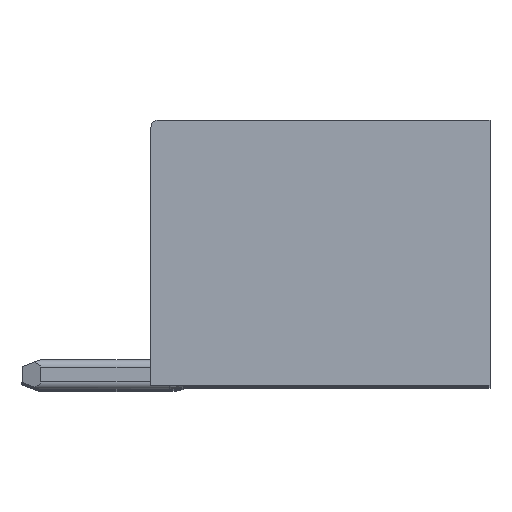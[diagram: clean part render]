
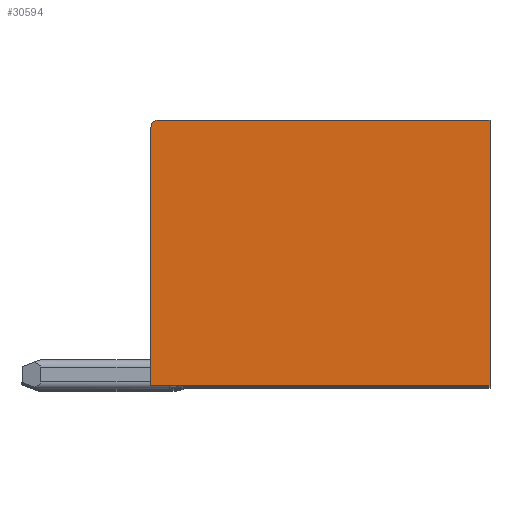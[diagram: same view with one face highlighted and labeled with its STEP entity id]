
A CAD part, top view. The second image highlights one B-rep face of the part: STEP entity #30594.
In plain terms, the highlighted planar face has unit normal (0, 0, 1).
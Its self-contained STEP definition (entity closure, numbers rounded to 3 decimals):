
#2057 = VERTEX_POINT ( 'NONE', #43226 ) ;
#2163 = ORIENTED_EDGE ( 'NONE', *, *, #7242, .F. ) ;
#4605 = DIRECTION ( 'NONE',  ( 0., -1., 0. ) ) ;
#5663 = VERTEX_POINT ( 'NONE', #7112 ) ;
#6028 = EDGE_CURVE ( 'NONE', #27742, #2057, #40909, .T. ) ;
#6651 = DIRECTION ( 'NONE',  ( 0., -1., 0. ) ) ;
#7112 = CARTESIAN_POINT ( 'NONE',  ( -1.337, 2.086, 14.227 ) ) ;
#7242 = EDGE_CURVE ( 'NONE', #18398, #43438, #15188, .T. ) ;
#9189 = DIRECTION ( 'NONE',  ( 1., 0., 0. ) ) ;
#9742 = VECTOR ( 'NONE', #41310, 1000. ) ;
#12047 = CARTESIAN_POINT ( 'NONE',  ( -1.337, 9.086, 14.227 ) ) ;
#12615 = DIRECTION ( 'NONE',  ( 0., 0., 1. ) ) ;
#15188 = LINE ( 'NONE', #22389, #9742 ) ;
#16206 = CARTESIAN_POINT ( 'NONE',  ( -6.2, -2.323, 14.227 ) ) ;
#18398 = VERTEX_POINT ( 'NONE', #34666 ) ;
#19615 = PLANE ( 'NONE',  #40955 ) ;
#19767 = EDGE_CURVE ( 'NONE', #5663, #43438, #23568, .T. ) ;
#20163 = ORIENTED_EDGE ( 'NONE', *, *, #19767, .T. ) ;
#20739 = CARTESIAN_POINT ( 'NONE',  ( -8.271, 2.086, 14.227 ) ) ;
#20865 = ORIENTED_EDGE ( 'NONE', *, *, #49484, .F. ) ;
#21997 = CARTESIAN_POINT ( 'NONE',  ( -1.337, 9.286, 14.227 ) ) ;
#22233 = LINE ( 'NONE', #12047, #28933 ) ;
#22315 = DIRECTION ( 'NONE',  ( 0., 0., 1. ) ) ;
#22389 = CARTESIAN_POINT ( 'NONE',  ( 7.863, 2.086, 14.227 ) ) ;
#23568 = LINE ( 'NONE', #20739, #48499 ) ;
#23977 = ORIENTED_EDGE ( 'NONE', *, *, #6028, .T. ) ;
#26064 = EDGE_LOOP ( 'NONE', ( #20163, #2163, #20865, #23977, #34632 ) ) ;
#27742 = VERTEX_POINT ( 'NONE', #28134 ) ;
#28134 = CARTESIAN_POINT ( 'NONE',  ( -1.137, 9.286, 14.227 ) ) ;
#28933 = VECTOR ( 'NONE', #30945, 1000. ) ;
#30594 = ADVANCED_FACE ( 'NONE', ( #37868 ), #19615, .T. ) ;
#30945 = DIRECTION ( 'NONE',  ( 0., -1., 0. ) ) ;
#30992 = VECTOR ( 'NONE', #37643, 1000. ) ;
#34632 = ORIENTED_EDGE ( 'NONE', *, *, #36310, .T. ) ;
#34666 = CARTESIAN_POINT ( 'NONE',  ( 7.863, 9.286, 14.227 ) ) ;
#36310 = EDGE_CURVE ( 'NONE', #2057, #5663, #22233, .T. ) ;
#37643 = DIRECTION ( 'NONE',  ( 1., 0., 0. ) ) ;
#37868 = FACE_OUTER_BOUND ( 'NONE', #26064, .T. ) ;
#37966 = CARTESIAN_POINT ( 'NONE',  ( -1.137, 9.086, 14.227 ) ) ;
#40909 = CIRCLE ( 'NONE', #45400, 0.2 ) ;
#40955 = AXIS2_PLACEMENT_3D ( 'NONE', #16206, #12615, #4605 ) ;
#41310 = DIRECTION ( 'NONE',  ( 0., -1., 0. ) ) ;
#41370 = LINE ( 'NONE', #21997, #30992 ) ;
#43226 = CARTESIAN_POINT ( 'NONE',  ( -1.337, 9.086, 14.227 ) ) ;
#43438 = VERTEX_POINT ( 'NONE', #47702 ) ;
#45400 = AXIS2_PLACEMENT_3D ( 'NONE', #37966, #22315, #6651 ) ;
#47702 = CARTESIAN_POINT ( 'NONE',  ( 7.863, 2.086, 14.227 ) ) ;
#48499 = VECTOR ( 'NONE', #9189, 1000. ) ;
#49484 = EDGE_CURVE ( 'NONE', #27742, #18398, #41370, .T. ) ;
